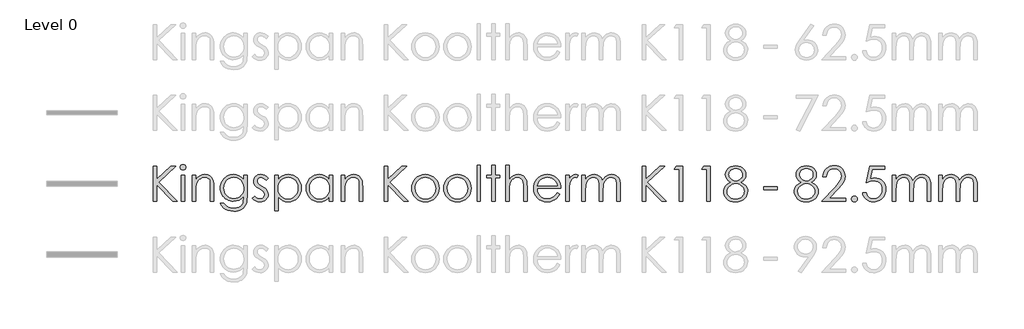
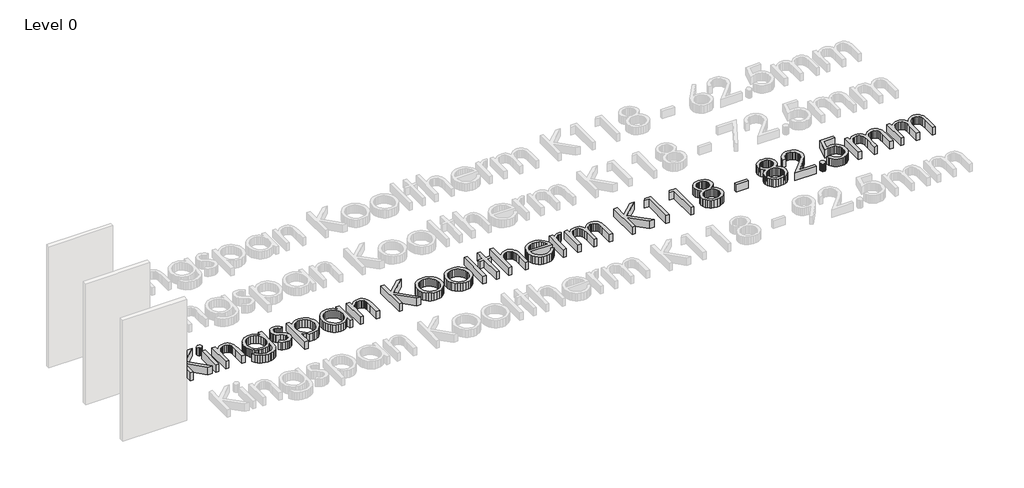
# One storey, part 2 of 8: 1 proxy.
"""IFC4 building model written with IfcOpenShell, lengths in millimetres."""

from ifc_helpers import new_model, si_unit, origin, origin_with_axes, place, context, project, spatial, polyline, outline, extrude, element, save

model = new_model("IFC4")

# Units and contexts
model_context = context("Model", 3, world=origin())
ifc_project = project(units=[si_unit("LENGTHUNIT", "METRE", prefix="MILLI")], contexts=[model_context])

# Site, building, storey
site = spatial("IfcSite", under=ifc_project)
building = spatial("IfcBuilding", under=site)
storey = spatial("IfcBuildingStorey", under=building, Name="Level 0", Elevation=0.0)

# Proxy
placement = place(None, origin())
element("IfcBuildingElementProxy", 1, Name="600mm KI_CenturyGothic", ObjectType="600mm KI_CenturyGothic", at=placement, inside=storey, context=model_context, shape_type="SweptSolid", body=[
    extrude(outline(polyline([(-3852.2663848, -1299.1034017), (-3792.944575, -1299.1034017), (-3792.944575, -1518.316027), (-3555.1938841, -1299.1034017), (-3471.6181051, -1299.1034017), (-3760.9664119, -1566.0515459), (-3441.9572002, -1892.3214999), (-3520.8984627, -1892.3214999), (-3792.944575, -1614.0960325), (-3792.944575, -1892.3214999), (-3852.2663848, -1892.3214999), (-3852.2663848, -1299.1034017)])), origin_with_axes(), (0.0, 0.0, 1.0), 150.0),
    extrude(outline(polyline([(-3348.1854852, -1269.4424967), (-3329.145347, -1272.7252792), (-3313.1176445, -1282.5736265), (-3302.226531, -1297.0178693), (-3298.5961598, -1314.088338), (-3302.226531, -1330.9270809), (-3313.1176445, -1345.2940817), (-3329.145347, -1355.142429), (-3348.1854852, -1358.4252115), (-3366.9938975, -1355.142429), (-3382.9443581, -1345.2940817), (-3393.8354717, -1330.9270809), (-3397.4658428, -1314.088338), (-3393.8354717, -1297.0178693), (-3382.9443581, -1282.5736265), (-3366.9938975, -1272.7252792), (-3348.1854852, -1269.4424967)])), origin_with_axes(), (0.0, 0.0, 1.0), 150.0),
    extrude(outline(polyline([(-3377.6919062, -1447.4079262), (-3318.3700964, -1447.4079262), (-3318.3700964, -1892.3214999), (-3377.6919062, -1892.3214999), (-3377.6919062, -1447.4079262)])), origin_with_axes(), (0.0, 0.0, 1.0), 150.0),
    extrude(outline(polyline([(-3189.8395084, -1447.4079262), (-3130.5176986, -1447.4079262), (-3130.5176986, -1526.5036726), (-3096.9946967, -1486.9944204), (-3060.0730495, -1459.303185), (-3019.7141359, -1442.9665147), (-2975.879335, -1437.5209579), (-2953.4357238, -1439.0995901), (-2932.2955704, -1443.8354865), (-2912.4588747, -1451.7286472), (-2893.9256368, -1462.7790723), (-2877.212412, -1476.5039994), (-2862.835756, -1492.4206667), (-2841.0921499, -1530.8292213), (-2833.6238199, -1555.2087086), (-2828.2892984, -1585.5551357), (-2824.0216812, -1664.1488095), (-2824.0216812, -1892.3214999), (-2883.343491, -1892.3214999), (-2883.343491, -1679.1337458), (-2883.343491, -1576.092998), (-2884.7290183, -1555.2956057), (-2889.8125035, -1537.2403023), (-2898.2849788, -1521.9270877), (-2910.1464442, -1509.355962), (-2924.7403432, -1499.5558909), (-2941.4101193, -1492.5558401), (-2980.977303, -1486.9557994), (-3005.3471351, -1489.1137461), (-3028.4038541, -1495.5875862), (-3050.1474602, -1506.3773197), (-3070.5779533, -1521.4829466), (-3088.6622225, -1539.7651482), (-3103.3671568, -1560.084606), (-3114.6927562, -1582.44132), (-3122.6390208, -1606.8352901), (-3128.5480292, -1653.9142525), (-3130.5176986, -1728.4141035), (-3130.5176986, -1892.3214999), (-3189.8395084, -1892.3214999), (-3189.8395084, -1447.4079262)])), origin_with_axes(), (0.0, 0.0, 1.0), 150.0),
    extrude(outline(polyline([(-2319.7862977, -1447.4079262), (-2260.4644879, -1447.4079262), (-2260.4644879, -1798.395301), (-2264.5196897, -1878.6496765), (-2269.588692, -1909.4499001), (-2276.6852953, -1934.0321474), (-2289.9371156, -1962.6454585), (-2307.2924139, -1987.7732271), (-2328.7511904, -2009.4154531), (-2354.3134448, -2027.5721366), (-2383.3226209, -2041.9343098), (-2415.122162, -2052.1930049), (-2449.7120682, -2058.348222), (-2487.0923395, -2060.3999611), (-2541.0458345, -2056.3833802), (-2589.206184, -2044.3336376), (-2630.260275, -2025.5059147), (-2662.8949946, -2001.1553932), (-2690.2000204, -1967.8061856), (-2715.2650299, -1921.9824048), (-2655.94322, -1921.9824048), (-2642.4355358, -1943.151524), (-2627.0933555, -1961.3951046), (-2609.9166791, -1976.7131468), (-2590.9055067, -1989.1056506), (-2569.7894914, -1998.6691682), (-2546.2982864, -2005.5002523), (-2492.1903075, -2010.9651195), (-2438.5071593, -2005.6354257), (-2415.083541, -1998.9733084), (-2393.93856, -1989.6463441), (-2359.6624492, -1965.6047903), (-2336.8567664, -1936.1176798), (-2329.3884364, -1917.4782342), (-2324.0539149, -1893.7697863), (-2319.7862977, -1831.1458835), (-2319.7862977, -1808.4367532), (-2354.757586, -1844.2190818), (-2396.6420279, -1870.6165148), (-2443.392712, -1886.8952536), (-2492.9627269, -1892.3214999), (-2522.4063889, -1890.4242447), (-2550.9521133, -1884.7324793), (-2578.5999001, -1875.2462036), (-2605.3497494, -1861.9654175), (-2630.1540674, -1845.4742634), (-2651.9652601, -1826.3568832), (-2670.7833277, -1804.6132772), (-2686.6082702, -1780.2434451), (-2699.1456025, -1753.9280817), (-2708.1008399, -1726.3478816), (-2713.4739824, -1697.5028447), (-2715.2650299, -1667.392971), (-2713.3967404, -1637.1044753), (-2707.7918722, -1607.8780563), (-2698.4504251, -1579.713714), (-2685.3723991, -1552.6114483), (-2668.9971079, -1527.4257483), (-2649.7638648, -1505.0111029), (-2627.67267, -1485.367512), (-2602.7235235, -1468.4949758), (-2575.9833294, -1454.943843), (-2548.5189922, -1445.2644624), (-2520.3305117, -1439.456834), (-2491.4178881, -1437.5209579), (-2444.5320306, -1442.4644421), (-2400.8903346, -1457.2948945), (-2359.6045177, -1483.8661218), (-2319.7862977, -1524.0319306), (-2319.7862977, -1447.4079262)]), holes=[polyline([(-2484.1571458, -1486.9557994), (-2529.0154023, -1492.9806707), (-2570.5908765, -1511.0552847), (-2606.2187212, -1539.7699758), (-2633.2340897, -1577.7150788), (-2650.2659375, -1621.9940208), (-2655.94322, -1669.7102292), (-2653.0080263, -1705.6229036), (-2644.2024452, -1738.2817613), (-2629.5264766, -1767.6868023), (-2608.9801206, -1793.8380266), (-2583.7606272, -1815.296803), (-2555.0652466, -1830.6245004), (-2522.8939786, -1839.8211189), (-2487.2468234, -1842.8866584), (-2451.3244937, -1839.845257), (-2419.1001219, -1830.7210528), (-2390.573708, -1815.5140459), (-2365.7452519, -1794.2242363), (-2345.6382095, -1767.9812872), (-2331.2760363, -1737.9148621), (-2322.6587323, -1704.024961), (-2319.7862977, -1666.3115838), (-2325.0773706, -1617.6105407), (-2340.9505892, -1574.3936754), (-2366.4983608, -1538.1672056), (-2400.8130926, -1510.4373492), (-2440.9982119, -1492.8261869), (-2484.1571458, -1486.9557994)])]), origin_with_axes(), (0.0, 0.0, 1.0), 150.0),
    extrude(outline(polyline([(-1904.5336289, -1498.6965743), (-1940.9918246, -1536.390641), (-1962.9575012, -1514.7628978), (-1984.6721416, -1499.3145098), (-2006.1357456, -1490.045477), (-2027.3483133, -1486.9557994), (-2052.181597, -1491.6289368), (-2073.2300256, -1505.6483489), (-2087.5970264, -1525.8857371), (-2092.3860267, -1549.212803), (-2088.4466878, -1570.7633042), (-2076.628671, -1591.2324183), (-2052.0657341, -1613.400855), (-2010.2006027, -1639.122421), (-1958.3326401, -1671.9888664), (-1939.8428507, -1687.8138088), (-1926.315856, -1703.2332311), (-1909.9791857, -1735.9065716), (-1904.5336289, -1772.4420092), (-1906.9474396, -1798.5884059), (-1914.1888714, -1822.6492701), (-1926.2579245, -1844.624602), (-1943.1545989, -1864.5144015), (-1963.6719892, -1881.0055557), (-1986.6031901, -1892.7849515), (-2011.9482016, -1899.852589), (-2039.7070237, -1902.2084682), (-2077.4397114, -1898.3270607), (-2113.3958344, -1886.6828383), (-2145.4512394, -1868.2027042), (-2171.4817731, -1843.8135617), (-2135.7959969, -1803.3387852), (-2114.0041146, -1824.9665283), (-2091.5749863, -1840.4149163), (-2068.5086121, -1849.6839491), (-2044.8049918, -1852.7736267), (-2013.637869, -1847.1349651), (-1987.4914724, -1830.2189802), (-1969.7644472, -1805.6560434), (-1963.8554388, -1777.0765256), (-1967.7561567, -1753.2860081), (-1979.4583106, -1732.2762005), (-2005.0253927, -1710.5712154), (-2050.2119275, -1683.7682622), (-2099.762632, -1653.1032121), (-2117.441381, -1637.9444814), (-2130.3890611, -1622.9016136), (-2146.3781427, -1590.7689666), (-2151.7078365, -1554.310771), (-2149.5305794, -1530.2643896), (-2142.9988078, -1508.3325063), (-2132.1125219, -1488.5151211), (-2116.8717217, -1470.812234), (-2098.309518, -1456.2473007), (-2077.4590218, -1445.8437769), (-2054.3202332, -1439.6016627), (-2028.8931521, -1437.5209579), (-1997.9481, -1441.3444339), (-1966.9064954, -1452.814862), (-1935.7683384, -1471.9322421), (-1904.5336289, -1498.6965743)])), origin_with_axes(), (0.0, 0.0, 1.0), 150.0),
    extrude(outline(polyline([(-1795.7769776, -1447.4079262), (-1736.4551678, -1447.4079262), (-1736.4551678, -1528.5119631), (-1700.9238754, -1488.2689124), (-1660.4490989, -1459.9211205), (-1614.9922173, -1443.1209986), (-1564.5146096, -1437.5209579), (-1520.0618732, -1441.7596094), (-1478.9305402, -1454.4755637), (-1441.1206107, -1475.668821), (-1406.6320845, -1505.3393811), (-1377.9077381, -1540.9768811), (-1357.3903478, -1580.070958), (-1345.0799137, -1622.6216116), (-1340.9764356, -1668.628842), (-1345.0412927, -1715.5291824), (-1357.235864, -1758.7508754), (-1377.5601494, -1798.293921), (-1406.014149, -1834.1583192), (-1440.2130179, -1863.9302594), (-1477.7719111, -1885.1959309), (-1518.6908288, -1897.9553339), (-1562.9697708, -1902.2084682), (-1612.6170277, -1896.743601), (-1658.0545988, -1880.3489992), (-1699.3211052, -1853.1019049), (-1736.4551678, -1815.07956), (-1736.4551678, -2050.5129928), (-1795.7769776, -2050.5129928), (-1795.7769776, -1447.4079262)]), holes=[polyline([(-1568.5311905, -1486.9557994), (-1602.5852307, -1490.2530647), (-1633.8392507, -1500.1448607), (-1662.2932503, -1516.6311872), (-1687.9472295, -1539.7120444), (-1709.1694525, -1567.6977647), (-1724.3281832, -1598.8986808), (-1733.4234216, -1633.3147926), (-1736.4551678, -1670.9461002), (-1731.048232, -1719.8016272), (-1714.8274246, -1763.4819442), (-1688.5265441, -1800.3263495), (-1652.8793888, -1828.6741414), (-1611.4390881, -1846.7487554), (-1567.7587711, -1852.7736267), (-1525.0632888, -1846.7101344), (-1485.0326535, -1828.5196576), (-1450.2544701, -1799.4187567), (-1423.3163435, -1760.6239924), (-1406.05277, -1715.9588407), (-1400.2982454, -1669.2467775), (-1405.9948385, -1622.3029886), (-1423.0846177, -1577.8695627), (-1449.8103289, -1539.5189395), (-1484.414718, -1510.8235589), (-1524.7157001, -1492.9227393), (-1568.5311905, -1486.9557994)])]), origin_with_axes(), (0.0, 0.0, 1.0), 150.0),
    extrude(outline(polyline([(-807.0801472, -1447.4079262), (-807.0801472, -1892.3214999), (-866.401957, -1892.3214999), (-866.401957, -1816.4699149), (-903.4780882, -1854.3184655), (-944.8797679, -1881.0441767), (-990.4525125, -1896.9173953), (-1040.0418379, -1902.2084682), (-1084.3159523, -1897.9553339), (-1125.2203871, -1885.1959309), (-1162.7551422, -1863.9302594), (-1196.9202178, -1834.1583192), (-1225.340424, -1798.293921), (-1245.6405713, -1758.7508754), (-1257.8206597, -1715.5291824), (-1261.8806892, -1668.628842), (-1257.7820388, -1622.6216116), (-1245.4860875, -1580.070958), (-1224.9928353, -1540.9768811), (-1196.3022822, -1505.3393811), (-1161.8475494, -1475.668821), (-1124.061758, -1454.4755637), (-1082.9449079, -1441.7596094), (-1038.4969991, -1437.5209579), (-987.7490446, -1443.1209986), (-942.0990581, -1459.9211205), (-921.2051134, -1472.6081091), (-901.6242816, -1488.2689124), (-866.401957, -1528.5119631), (-866.401957, -1447.4079262), (-807.0801472, -1447.4079262)]), holes=[polyline([(-1034.3259343, -1486.9557994), (-1078.1414247, -1492.9227393), (-1118.4424068, -1510.8235589), (-1153.0467959, -1539.5189395), (-1179.7725071, -1577.8695627), (-1196.8622863, -1622.3029886), (-1202.5588794, -1669.2467775), (-1196.8043548, -1715.9588407), (-1179.5407813, -1760.6239924), (-1152.6026548, -1799.4187567), (-1117.8244713, -1828.5196576), (-1077.6779731, -1846.7101344), (-1034.6349021, -1852.7736267), (-991.0125165, -1846.7487554), (-949.7460102, -1828.6741414), (-914.2726493, -1800.3263495), (-888.0297002, -1763.4819442), (-871.8088928, -1719.8016272), (-866.401957, -1670.9461002), (-869.4337032, -1633.3147926), (-878.5289416, -1598.8986808), (-893.6876723, -1567.6977647), (-914.9098953, -1539.7120444), (-940.5638746, -1516.6311872), (-969.0178742, -1500.1448607), (-1000.2718941, -1490.2530647), (-1034.3259343, -1486.9557994)])]), origin_with_axes(), (0.0, 0.0, 1.0), 150.0),
    extrude(outline(polyline([(-668.662591, -1447.4079262), (-609.3407811, -1447.4079262), (-609.3407811, -1526.5036726), (-575.8177792, -1486.9944204), (-538.896132, -1459.303185), (-498.5372184, -1442.9665147), (-454.7024175, -1437.5209579), (-432.2588064, -1439.0995901), (-411.1186529, -1443.8354865), (-391.2819572, -1451.7286472), (-372.7487193, -1462.7790723), (-356.0354946, -1476.5039994), (-341.6588385, -1492.4206667), (-319.9152324, -1530.8292213), (-312.4469024, -1555.2087086), (-307.1123809, -1585.5551357), (-302.8447637, -1664.1488095), (-302.8447637, -1892.3214999), (-362.1665735, -1892.3214999), (-362.1665735, -1679.1337458), (-362.1665735, -1576.092998), (-363.5521008, -1555.2956057), (-368.635586, -1537.2403023), (-377.1080613, -1521.9270877), (-388.9695267, -1509.355962), (-403.5634257, -1499.5558909), (-420.2332018, -1492.5558401), (-459.8003855, -1486.9557994), (-484.1702176, -1489.1137461), (-507.2269366, -1495.5875862), (-528.9705427, -1506.3773197), (-549.4010358, -1521.4829466), (-567.485305, -1539.7651482), (-582.1902393, -1560.084606), (-593.5158387, -1582.44132), (-601.4621033, -1606.8352901), (-607.3711117, -1653.9142525), (-609.3407811, -1728.4141035), (-609.3407811, -1892.3214999), (-668.662591, -1892.3214999), (-668.662591, -1447.4079262)])), origin_with_axes(), (0.0, 0.0, 1.0), 150.0),
    extrude(outline(polyline([(62.9730635, -1299.1034017), (122.2948734, -1299.1034017), (122.2948734, -1518.316027), (360.0455643, -1299.1034017), (443.6213432, -1299.1034017), (154.2730365, -1566.0515459), (473.2822481, -1892.3214999), (394.3409856, -1892.3214999), (122.2948734, -1614.0960325), (122.2948734, -1892.3214999), (62.9730635, -1892.3214999), (62.9730635, -1299.1034017)])), origin_with_axes(), (0.0, 0.0, 1.0), 150.0),
    extrude(outline(polyline([(760.1588128, -1437.5209579), (809.4681362, -1442.1458191), (854.3553585, -1456.0204025), (894.8204798, -1479.1447083), (930.8635, -1511.5187363), (957.7630055, -1546.7507161), (976.9769381, -1585.091684), (988.5052976, -1626.54164), (992.3480841, -1671.1005841), (988.283227, -1715.9153921), (976.0886558, -1757.8239721), (955.7643703, -1796.8263241), (927.3103707, -1832.9224481), (892.4742558, -1863.2350819), (853.0036246, -1884.8869632), (808.8984769, -1897.8780919), (760.1588128, -1902.2084682), (711.2839754, -1897.8780919), (667.0822753, -1884.8869632), (627.5537126, -1863.2350819), (592.6982872, -1832.9224481), (564.2442876, -1796.8263241), (543.9200022, -1757.8239721), (531.7254309, -1715.9153921), (527.6605738, -1671.1005841), (531.5033603, -1626.7347449), (543.0317198, -1585.4006518), (562.2456524, -1547.0983049), (589.145158, -1511.8277041), (625.2074886, -1479.3185026), (665.7305413, -1456.0976445), (710.7143161, -1442.1651295), (760.1588128, -1437.5209579)]), holes=[polyline([(760.004329, -1486.9557994), (725.7282181, -1490.3303067), (693.9624704, -1500.4538284), (664.7070856, -1517.3263647), (637.962064, -1540.9479154), (615.6584538, -1569.3584664), (599.7273037, -1600.5980035), (590.1686137, -1634.6665266), (586.9823836, -1671.5640357), (592.7948396, -1719.2995546), (610.2322075, -1763.6364281), (637.5758543, -1801.4270471), (673.1071466, -1829.5238028), (714.6439998, -1846.9611707), (760.004329, -1852.7736267), (805.3646581, -1846.9611707), (846.9015113, -1829.5238028), (882.4328037, -1801.4270471), (909.7764504, -1763.6364281), (927.2138183, -1719.2995546), (933.0262743, -1671.5640357), (929.8255614, -1634.6665266), (920.2234227, -1600.5980035), (904.2198583, -1569.3584664), (881.8148681, -1540.9479154), (854.9974321, -1517.3263647), (825.7565303, -1500.4538284), (794.0921625, -1490.3303067), (760.004329, -1486.9557994)])]), origin_with_axes(), (0.0, 0.0, 1.0), 150.0),
    extrude(outline(polyline([(1303.9420695, -1437.5209579), (1353.2513929, -1442.1458191), (1398.1386152, -1456.0204025), (1438.6037365, -1479.1447083), (1474.6467567, -1511.5187363), (1501.5462622, -1546.7507161), (1520.7601948, -1585.091684), (1532.2885543, -1626.54164), (1536.1313408, -1671.1005841), (1532.0664837, -1715.9153921), (1519.8719125, -1757.8239721), (1499.547627, -1796.8263241), (1471.0936274, -1832.9224481), (1436.2575126, -1863.2350819), (1396.7868813, -1884.8869632), (1352.6817336, -1897.8780919), (1303.9420695, -1902.2084682), (1255.0672321, -1897.8780919), (1210.865532, -1884.8869632), (1171.3369693, -1863.2350819), (1136.4815439, -1832.9224481), (1108.0275443, -1796.8263241), (1087.7032589, -1757.8239721), (1075.5086876, -1715.9153921), (1071.4438305, -1671.1005841), (1075.286617, -1626.7347449), (1086.8149766, -1585.4006518), (1106.0289091, -1547.0983049), (1132.9284147, -1511.8277041), (1168.9907453, -1479.3185026), (1209.5137981, -1456.0976445), (1254.4975728, -1442.1651295), (1303.9420695, -1437.5209579)]), holes=[polyline([(1303.7875857, -1486.9557994), (1269.5114748, -1490.3303067), (1237.7457271, -1500.4538284), (1208.4903423, -1517.3263647), (1181.7453207, -1540.9479154), (1159.4417105, -1569.3584664), (1143.5105604, -1600.5980035), (1133.9518704, -1634.6665266), (1130.7656404, -1671.5640357), (1136.5780963, -1719.2995546), (1154.0154643, -1763.6364281), (1181.359111, -1801.4270471), (1216.8904033, -1829.5238028), (1258.4272565, -1846.9611707), (1303.7875857, -1852.7736267), (1349.1479149, -1846.9611707), (1390.684768, -1829.5238028), (1426.2160604, -1801.4270471), (1453.5597071, -1763.6364281), (1470.997075, -1719.2995546), (1476.809531, -1671.5640357), (1473.6088181, -1634.6665266), (1464.0066795, -1600.5980035), (1448.003115, -1569.3584664), (1425.5981249, -1540.9479154), (1398.7806889, -1517.3263647), (1369.539787, -1500.4538284), (1337.8754193, -1490.3303067), (1303.7875857, -1486.9557994)])]), origin_with_axes(), (0.0, 0.0, 1.0), 150.0),
    extrude(outline(polyline([(1635.0010238, -1279.3294651), (1694.3228337, -1279.3294651), (1694.3228337, -1892.3214999), (1635.0010238, -1892.3214999), (1635.0010238, -1279.3294651)])), origin_with_axes(), (0.0, 0.0, 1.0), 150.0),
    extrude(outline(polyline([(1882.1752314, -1279.3294651), (1941.4970413, -1279.3294651), (1941.4970413, -1447.4079262), (2020.5927877, -1447.4079262), (2020.5927877, -1496.8427677), (1941.4970413, -1496.8427677), (1941.4970413, -1892.3214999), (1882.1752314, -1892.3214999), (1882.1752314, -1496.8427677), (1803.079485, -1496.8427677), (1803.079485, -1447.4079262), (1882.1752314, -1447.4079262), (1882.1752314, -1279.3294651)])), origin_with_axes(), (0.0, 0.0, 1.0), 150.0),
    extrude(outline(polyline([(2119.4624707, -1279.3294651), (2178.7842806, -1279.3294651), (2178.7842806, -1528.0485114), (2212.5583188, -1488.3461544), (2249.6151394, -1460.0756044), (2289.9161216, -1443.1596195), (2333.4226442, -1437.5209579), (2355.8662553, -1439.0995901), (2377.0064088, -1443.8354865), (2396.8431044, -1451.7286472), (2415.3763424, -1462.7790723), (2432.0895671, -1476.4895166), (2446.4662232, -1492.3627352), (2468.2098293, -1530.5974955), (2475.6781593, -1554.9045684), (2481.0126808, -1585.2654784), (2485.280298, -1664.1488095), (2485.280298, -1892.3214999), (2425.9584882, -1892.3214999), (2425.9584882, -1679.1337458), (2424.5681332, -1614.752589), (2420.3970685, -1576.092998), (2406.879729, -1537.2403023), (2397.1665551, -1521.9270877), (2385.4837117, -1509.355962), (2371.840854, -1499.5558909), (2356.2476374, -1492.5558401), (2319.2101273, -1486.9557994), (2296.3416854, -1489.1137461), (2274.6994594, -1495.5875862), (2254.2834492, -1506.3773197), (2235.0936547, -1521.4829466), (2218.1052556, -1539.7651482), (2204.2934312, -1560.084606), (2193.6581816, -1582.44132), (2186.1995068, -1606.8352901), (2180.6380871, -1653.6825267), (2178.7842806, -1728.4141035), (2178.7842806, -1892.3214999), (2119.4624707, -1892.3214999), (2119.4624707, -1279.3294651)])), origin_with_axes(), (0.0, 0.0, 1.0), 150.0),
    extrude(outline(polyline([(2991.0605203, -1744.0169753), (3038.950523, -1769.1978477), (3013.3255094, -1811.0822896), (2984.0315038, -1844.0452875), (2950.952643, -1869.1296074), (2913.9730643, -1887.3780157), (2872.4941426, -1898.5008551), (2825.9172528, -1902.2084682), (2774.4258447, -1897.7767119), (2728.8627554, -1884.481443), (2689.227985, -1862.3226615), (2655.5215335, -1831.3003674), (2628.6220279, -1794.6973431), (2609.4080954, -1755.7963712), (2597.8797358, -1714.5974515), (2594.0369493, -1671.1005841), (2597.3197318, -1630.2202874), (2607.1680791, -1591.618628), (2623.5819913, -1555.2956057), (2646.5614684, -1521.2512207), (2682.7493173, -1484.6192308), (2724.5758277, -1458.4535236), (2772.0409998, -1442.7540993), (2825.1448334, -1437.5209579), (2879.7935059, -1442.8892727), (2928.6490329, -1458.9942172), (2971.7114143, -1485.8357913), (3008.9806503, -1523.4139951), (3030.4539096, -1555.585263), (3045.9022976, -1591.541386), (3055.3258143, -1631.2823641), (3058.7244596, -1674.8081972), (2653.3587591, -1674.8081972), (2657.095338, -1712.0629503), (2666.6057518, -1745.8128504), (2681.8900007, -1776.0578975), (2702.9480845, -1802.7980916), (2728.3124066, -1824.6623882), (2756.5153699, -1840.2797429), (2787.5569744, -1849.6501557), (2821.4372203, -1852.7736267), (2854.9602222, -1849.761191), (2887.5563208, -1840.7238841), (2917.2944677, -1826.6851615), (2942.2436143, -1808.668479), (2965.725164, -1782.5027719), (2991.0605203, -1744.0169753)]), holes=[polyline([(2999.4026498, -1625.3733557), (2984.9777175, -1582.8516678), (2965.1844704, -1549.8307385), (2939.0766947, -1524.3022774), (2905.7081767, -1504.257994), (2867.7630738, -1491.2813481), (2827.9255433, -1486.9557994), (2795.503239, -1489.6689226), (2765.4368139, -1497.808292), (2737.726268, -1511.3739077), (2712.3716012, -1530.3657696), (2695.8321708, -1548.179692), (2681.4362043, -1569.9522638), (2669.1837016, -1595.683485), (2659.0746627, -1625.3733557), (2999.4026498, -1625.3733557)])]), origin_with_axes(), (0.0, 0.0, 1.0), 150.0),
    extrude(outline(polyline([(3137.820206, -1447.4079262), (3197.1420159, -1447.4079262), (3197.1420159, -1511.8277041), (3222.6897875, -1478.7874643), (3249.589293, -1455.6728138), (3277.7632906, -1442.0589219), (3307.1345382, -1437.5209579), (3330.4616041, -1441.305813), (3355.3335087, -1452.6603781), (3325.8270877, -1494.6799934), (3297.2475699, -1486.9557994), (3270.8308265, -1492.9034288), (3245.3409863, -1510.7463169), (3223.2884125, -1541.1023993), (3207.183468, -1584.5896114), (3199.6523789, -1642.7141712), (3197.1420159, -1740.1548783), (3197.1420159, -1892.3214999), (3137.820206, -1892.3214999), (3137.820206, -1447.4079262)])), origin_with_axes(), (0.0, 0.0, 1.0), 150.0),
    extrude(outline(polyline([(3414.6553185, -1447.4079262), (3473.9771284, -1447.4079262), (3473.9771284, -1523.5684789), (3503.5607913, -1487.0716623), (3533.9168737, -1461.9294109), (3577.3268439, -1443.6230712), (3622.8995884, -1437.5209579), (3653.7384329, -1440.668567), (3682.9165757, -1450.1113941), (3708.6767627, -1464.7873627), (3729.2617397, -1483.634396), (3746.0425511, -1509.0663047), (3760.3902414, -1543.4968994), (3775.16759, -1519.0981017), (3791.6925376, -1497.808292), (3809.965084, -1479.6274704), (3829.9852293, -1464.5556369), (3851.2798666, -1452.7279648), (3873.375889, -1444.2796277), (3896.2732965, -1439.2106253), (3919.9720892, -1437.5209579), (3962.3006723, -1443.3334139), (3981.4952943, -1450.5989839), (3999.3768034, -1460.7707818), (4015.4914031, -1473.53984), (4029.385297, -1488.5971907), (4050.5109676, -1525.5767694), (4057.8103309, -1548.9521114), (4063.0241619, -1577.5219739), (4067.1952266, -1650.2452603), (4067.1952266, -1892.3214999), (4007.8734168, -1892.3214999), (4007.8734168, -1646.6921311), (4005.4209852, -1585.5744462), (3998.0636904, -1547.1272706), (3984.7587663, -1522.6608861), (3964.4634466, -1503.4855746), (3938.3942919, -1491.0882432), (3907.7678627, -1486.9557994), (3888.1194443, -1488.5054659), (3869.3399976, -1493.1544651), (3834.3880198, -1511.7504621), (3805.6540182, -1540.6968791), (3785.8800816, -1577.9468046), (3779.1889985, -1602.1042213), (3774.4096535, -1633.1747916), (3770.5861775, -1716.0553931), (3770.5861775, -1892.3214999), (3711.2643677, -1892.3214999), (3711.2643677, -1661.9860352), (3708.850557, -1593.530366), (3701.6091252, -1551.2983353), (3688.3621325, -1525.0553863), (3667.9316394, -1504.5669617), (3641.6114484, -1491.35859), (3610.6953619, -1486.9557994), (3573.7544042, -1492.9999812), (3539.2465676, -1511.1325266), (3510.2808401, -1539.499629), (3489.9662099, -1576.2474819), (3477.9743988, -1628.0768236), (3473.9771284, -1701.6883923), (3473.9771284, -1892.3214999), (3414.6553185, -1892.3214999), (3414.6553185, -1447.4079262)])), origin_with_axes(), (0.0, 0.0, 1.0), 150.0),
    extrude(outline(polyline([(4433.0130538, -1299.1034017), (4492.3348637, -1299.1034017), (4492.3348637, -1518.316027), (4730.0855546, -1299.1034017), (4813.6613335, -1299.1034017), (4524.3130268, -1566.0515459), (4843.3222385, -1892.3214999), (4764.3809759, -1892.3214999), (4492.3348637, -1614.0960325), (4492.3348637, -1892.3214999), (4433.0130538, -1892.3214999), (4433.0130538, -1299.1034017)])), origin_with_axes(), (0.0, 0.0, 1.0), 150.0),
    extrude(outline(polyline([(5010.6282802, -1299.1034017), (5125.1008351, -1299.1034017), (5125.1008351, -1892.3214999), (5065.7790253, -1892.3214999), (5065.7790253, -1348.5382432), (4976.7963106, -1348.5382432), (5010.6282802, -1299.1034017)])), origin_with_axes(), (0.0, 0.0, 1.0), 150.0),
    extrude(outline(polyline([(5475.3157905, -1299.1034017), (5589.7883454, -1299.1034017), (5589.7883454, -1892.3214999), (5530.4665356, -1892.3214999), (5530.4665356, -1348.5382432), (5441.4838208, -1348.5382432), (5475.3157905, -1299.1034017)])), origin_with_axes(), (0.0, 0.0, 1.0), 150.0),
    extrude(outline(polyline([(6107.7727942, -1568.2143202), (6159.8724826, -1599.6131687), (6179.6946955, -1616.8477766), (6195.365154, -1635.1058401), (6207.2604128, -1654.5225327), (6215.7570261, -1675.2330279), (6220.8549942, -1697.2373255), (6222.5543169, -1720.5354256), (6219.734986, -1753.2184214), (6211.2769936, -1783.9124373), (6197.1803396, -1812.6174732), (6177.445024, -1839.3335291), (6146.7510081, -1866.841315), (6110.1286734, -1886.4897334), (6067.5780197, -1898.2787845), (6019.0990472, -1902.2084682), (5972.4352603, -1898.756719), (5931.7770342, -1888.4014714), (5897.1243689, -1871.1427255), (5868.4772645, -1846.9804812), (5846.0384809, -1818.6664826), (5830.0107784, -1788.9524739), (5820.3941569, -1757.838455), (5817.1886164, -1725.3244259), (5818.9024219, -1701.5966675), (5824.0438386, -1679.0758144), (5832.6128663, -1657.7618666), (5844.609505, -1637.6548241), (5860.5068618, -1618.6871003), (5880.7780434, -1600.7911083), (5905.4230498, -1583.9668483), (5934.4418811, -1568.2143202), (5896.0719475, -1543.2651736), (5868.7089903, -1512.9090912), (5852.3143886, -1478.6522909), (5846.8495213, -1442.0009904), (5852.6426668, -1404.2876133), (5870.0221033, -1367.4625184), (5897.6360968, -1334.9436618), (5934.1329134, -1310.1489991), (5976.7318432, -1294.4495748), (6022.6521765, -1289.2164334), (6067.3945701, -1294.4881958), (6108.6224555, -1310.3034829), (6143.8254696, -1335.1753876), (6170.4932494, -1367.6170023), (6187.2933713, -1404.7510649), (6192.8934119, -1443.7003131), (6187.5830286, -1481.2398959), (6171.6518785, -1514.45393), (6145.0613407, -1543.4196575), (6107.7727942, -1568.2143202)]), holes=[polyline([(6022.9611442, -1595.7124508), (5993.0926516, -1598.2228138), (5965.7441773, -1605.753903), (5940.9157212, -1618.3057182), (5918.6072834, -1635.8782595), (5900.1899084, -1656.7818595), (5887.0346405, -1679.3268507), (5879.1414798, -1703.5132331), (5876.5104262, -1729.3410068), (5881.0097692, -1761.4543433), (5894.5077982, -1791.6752522), (5916.0776099, -1817.6092335), (5944.7923011, -1836.8617871), (5979.6670369, -1848.7956668), (6019.7169827, -1852.7736267), (6050.9372093, -1850.3549884), (6078.7877563, -1843.0990737), (6103.2686236, -1831.0058825), (6124.3798113, -1814.0754148), (6141.3778657, -1793.9104409), (6153.5193331, -1772.113731), (6160.8042135, -1748.6852851), (6163.232507, -1723.6251032), (6160.6642125, -1699.2938921), (6152.959329, -1676.353036), (6140.1178565, -1654.8025348), (6122.139795, -1634.6423885), (6100.5313623, -1617.6105407), (6076.7987763, -1605.4449352), (6050.9420369, -1598.1455719), (6022.9611442, -1595.7124508)]), polyline([(6019.7169827, -1338.6512749), (5996.2112949, -1340.5099091), (5974.8201052, -1346.0858116), (5955.5434136, -1355.3789825), (5938.3812201, -1368.3894217), (5924.2893937, -1383.9778107), (5914.2238034, -1401.0048308), (5908.1844492, -1419.4704821), (5906.1713311, -1439.3747645), (5908.3389331, -1459.2838745), (5914.8417389, -1478.2274602), (5925.6797486, -1496.2055217), (5940.8529621, -1513.218059), (5958.9130932, -1527.6816122), (5978.4118554, -1538.0127217), (5999.3492487, -1544.2113874), (6021.7252732, -1546.2776093), (6050.4399643, -1542.5313752), (6077.5711957, -1531.2926729), (6101.0334349, -1513.5463372), (6118.7411497, -1490.2772028), (6129.863989, -1464.2273586), (6133.5716021, -1438.1388934), (6131.7467613, -1419.9677271), (6126.2722388, -1402.5303592), (6117.1480347, -1385.8267897), (6104.3741488, -1369.8570186), (6088.134031, -1356.2045057), (6068.6111307, -1346.4527108), (6045.8054479, -1340.6016339), (6019.7169827, -1338.6512749)])]), origin_with_axes(), (0.0, 0.0, 1.0), 150.0),
    extrude(outline(polyline([(6499.3894294, -1645.1472923), (6726.7897004, -1645.1472923), (6726.7897004, -1694.5821338), (6499.3894294, -1694.5821338), (6499.3894294, -1645.1472923)])), origin_with_axes(), (0.0, 0.0, 1.0), 150.0),
    extrude(outline(polyline([(7304.095959, -1568.2143202), (7356.1956474, -1599.6131687), (7376.0178602, -1616.8477766), (7391.6883188, -1635.1058401), (7403.5835775, -1654.5225327), (7412.0801909, -1675.2330279), (7417.1781589, -1697.2373255), (7418.8774816, -1720.5354256), (7416.0581508, -1753.2184214), (7407.6001584, -1783.9124373), (7393.5035044, -1812.6174732), (7373.7681887, -1839.3335291), (7343.0741729, -1866.841315), (7306.4518381, -1886.4897334), (7263.9011845, -1898.2787845), (7215.422212, -1902.2084682), (7168.7584251, -1898.756719), (7128.100199, -1888.4014714), (7093.4475337, -1871.1427255), (7064.8004292, -1846.9804812), (7042.3616457, -1818.6664826), (7026.3339432, -1788.9524739), (7016.7173217, -1757.838455), (7013.5117812, -1725.3244259), (7015.2255867, -1701.5966675), (7020.3670033, -1679.0758144), (7028.936031, -1657.7618666), (7040.9326698, -1637.6548241), (7056.8300266, -1618.6871003), (7077.1012082, -1600.7911083), (7101.7462146, -1583.9668483), (7130.7650459, -1568.2143202), (7092.3951123, -1543.2651736), (7065.0321551, -1512.9090912), (7048.6375533, -1478.6522909), (7043.1726861, -1442.0009904), (7048.9658316, -1404.2876133), (7066.345268, -1367.4625184), (7093.9592615, -1334.9436618), (7130.4560781, -1310.1489991), (7173.055008, -1294.4495748), (7218.9753412, -1289.2164334), (7263.7177349, -1294.4881958), (7304.9456203, -1310.3034829), (7340.1486344, -1335.1753876), (7366.8164141, -1367.6170023), (7383.6165361, -1404.7510649), (7389.2165767, -1443.7003131), (7383.9061933, -1481.2398959), (7367.9750432, -1514.45393), (7341.3845054, -1543.4196575), (7304.095959, -1568.2143202)]), holes=[polyline([(7219.284309, -1595.7124508), (7189.4158164, -1598.2228138), (7162.067342, -1605.753903), (7137.238886, -1618.3057182), (7114.9304482, -1635.8782595), (7096.5130732, -1656.7818595), (7083.3578053, -1679.3268507), (7075.4646446, -1703.5132331), (7072.833591, -1729.3410068), (7077.332934, -1761.4543433), (7090.830963, -1791.6752522), (7112.4007747, -1817.6092335), (7141.1154658, -1836.8617871), (7175.9902017, -1848.7956668), (7216.0401475, -1852.7736267), (7247.2603741, -1850.3549884), (7275.110921, -1843.0990737), (7299.5917884, -1831.0058825), (7320.702976, -1814.0754148), (7337.7010304, -1793.9104409), (7349.8424979, -1772.113731), (7357.1273783, -1748.6852851), (7359.5556718, -1723.6251032), (7356.9873773, -1699.2938921), (7349.2824938, -1676.353036), (7336.4410213, -1654.8025348), (7318.4629598, -1634.6423885), (7296.8545271, -1617.6105407), (7273.1219411, -1605.4449352), (7247.2652017, -1598.1455719), (7219.284309, -1595.7124508)]), polyline([(7216.0401475, -1338.6512749), (7192.5344597, -1340.5099091), (7171.14327, -1346.0858116), (7151.8665783, -1355.3789825), (7134.7043848, -1368.3894217), (7120.6125584, -1383.9778107), (7110.5469681, -1401.0048308), (7104.507614, -1419.4704821), (7102.4944959, -1439.3747645), (7104.6620978, -1459.2838745), (7111.1649037, -1478.2274602), (7122.0029133, -1496.2055217), (7137.1761269, -1513.218059), (7155.236258, -1527.6816122), (7174.7350202, -1538.0127217), (7195.6724135, -1544.2113874), (7218.048438, -1546.2776093), (7246.7631291, -1542.5313752), (7273.8943605, -1531.2926729), (7297.3565997, -1513.5463372), (7315.0643144, -1490.2772028), (7326.1871538, -1464.2273586), (7329.8947669, -1438.1388934), (7328.0699261, -1419.9677271), (7322.5954036, -1402.5303592), (7313.4711994, -1385.8267897), (7300.6973136, -1369.8570186), (7284.4571958, -1356.2045057), (7264.9342955, -1346.4527108), (7242.1286127, -1340.6016339), (7216.0401475, -1338.6512749)])]), origin_with_axes(), (0.0, 0.0, 1.0), 150.0),
    extrude(outline(polyline([(7557.2950379, -1477.0688311), (7497.9732281, -1477.0688311), (7502.4580882, -1437.8106152), (7513.5954104, -1402.2213914), (7531.3851947, -1370.3011597), (7555.827441, -1342.0499202), (7585.2228268, -1318.9352697), (7617.8720292, -1302.4248051), (7653.7750484, -1292.5185263), (7692.9318843, -1289.2164334), (7731.403198, -1292.5136987), (7766.0220699, -1302.4054946), (7796.7885001, -1318.8918211), (7823.7024885, -1341.9726783), (7845.5667851, -1369.533568), (7861.1841398, -1399.459992), (7870.5545527, -1431.7519505), (7873.6780236, -1466.4094434), (7867.5952208, -1515.2070389), (7849.3468125, -1560.8763359), (7813.5644839, -1612.763609), (7754.8799201, -1680.215133), (7602.095363, -1842.8866584), (7883.5649919, -1842.8866584), (7883.5649919, -1892.3214999), (7478.1992914, -1892.3214999), (7704.2092075, -1651.6356152), (7760.9434124, -1586.1151397), (7793.6553739, -1540.0210121), (7809.1810038, -1502.6552237), (7814.3562138, -1463.3197658), (7812.1065423, -1438.7133804), (7805.3575278, -1415.8739043), (7794.1091703, -1394.8013375), (7778.3614698, -1375.4956802), (7759.3502973, -1359.3762529), (7738.311524, -1347.8623762), (7715.2451497, -1340.9540502), (7690.1511745, -1338.6512749), (7663.8165006, -1340.9250845), (7639.8087401, -1347.7465133), (7618.1278932, -1359.1155613), (7598.7739596, -1375.0322286), (7582.5386694, -1395.0523738), (7570.2137523, -1418.731856), (7561.7992085, -1446.0706751), (7557.2950379, -1477.0688311)])), origin_with_axes(), (0.0, 0.0, 1.0), 150.0),
    extrude(outline(polyline([(8031.8695165, -1803.3387852), (8050.8903442, -1806.9305354), (8066.8601152, -1817.705786), (8077.6932973, -1833.6562466), (8081.304358, -1852.7736267), (8077.6932973, -1871.6979019), (8066.8601152, -1887.6869835), (8050.8903442, -1898.578097), (8031.8695165, -1902.2084682), (8012.8486888, -1898.578097), (7996.8789177, -1887.6869835), (7986.0457356, -1871.6979019), (7982.4346749, -1852.7736267), (7986.0457356, -1833.6562466), (7996.8789177, -1817.705786), (8012.8486888, -1806.9305354), (8031.8695165, -1803.3387852)])), origin_with_axes(), (0.0, 0.0, 1.0), 150.0),
    extrude(outline(polyline([(8545.9918683, -1299.1034017), (8545.9918683, -1348.5382432), (8338.6745016, -1348.5382432), (8304.2245965, -1509.5104459), (8341.8028002, -1500.0096873), (8375.441665, -1496.8427677), (8415.0281592, -1500.2655512), (8450.9842822, -1510.5339016), (8483.3100341, -1527.6478189), (8512.0054147, -1551.6073031), (8535.5255854, -1580.9157917), (8552.3257073, -1614.076722), (8562.4057805, -1651.090094), (8565.7658049, -1691.9559079), (8564.0423441, -1720.9216353), (8558.8719617, -1748.6514917), (8550.2546578, -1775.1454771), (8538.1904323, -1800.4035914), (8523.1861855, -1823.6051391), (8505.7488176, -1843.9294246), (8485.8783286, -1861.3764477), (8463.5747184, -1875.9462086), (8439.1421273, -1887.4359472), (8412.8846954, -1895.6429033), (8384.8024226, -1900.567077), (8354.895309, -1902.2084682), (8319.5619491, -1899.4518965), (8287.0961963, -1891.1821813), (8257.4980505, -1877.3993226), (8230.7675116, -1858.1033205), (8208.0149327, -1834.4334936), (8190.3506666, -1807.5291604), (8177.7747133, -1777.390321), (8170.2870727, -1744.0169753), (8229.6088825, -1744.0169753), (8239.1868831, -1776.7482474), (8253.7083678, -1802.6436077), (8273.5402358, -1822.9582379), (8299.0493865, -1838.9473194), (8328.0730454, -1849.3170499), (8358.4484383, -1852.7736267), (8387.7376163, -1849.8480882), (8414.8929858, -1841.0714728), (8439.9145467, -1826.4437804), (8462.802299, -1805.9650111), (8481.895541, -1781.0931065), (8495.533571, -1753.2860081), (8503.716389, -1722.543716), (8506.4439951, -1688.8662303), (8503.9819082, -1658.6791146), (8496.5956477, -1631.4561585), (8484.2852135, -1607.1973617), (8467.0506057, -1585.9027244), (8445.6932093, -1568.5667365), (8421.0144096, -1556.183888), (8393.0142063, -1548.754179), (8361.6925997, -1546.2776093), (8332.9875638, -1548.1314158), (8301.4052657, -1553.6928355), (8229.6088825, -1575.9385142), (8288.9306924, -1299.1034017), (8545.9918683, -1299.1034017)])), origin_with_axes(), (0.0, 0.0, 1.0), 150.0),
    extrude(outline(polyline([(8674.5224562, -1447.4079262), (8733.844266, -1447.4079262), (8733.844266, -1523.5684789), (8763.427929, -1487.0716623), (8793.7840114, -1461.9294109), (8837.1939816, -1443.6230712), (8882.7667261, -1437.5209579), (8913.6055706, -1440.668567), (8942.7837134, -1450.1113941), (8968.5439003, -1464.7873627), (8989.1288773, -1483.634396), (9005.9096888, -1509.0663047), (9020.2573791, -1543.4968994), (9035.0347277, -1519.0981017), (9051.5596752, -1497.808292), (9069.8322216, -1479.6274704), (9089.8523669, -1464.5556369), (9111.1470042, -1452.7279648), (9133.2430266, -1444.2796277), (9156.1404342, -1439.2106253), (9179.8392269, -1437.5209579), (9222.1678099, -1443.3334139), (9241.362432, -1450.5989839), (9259.2439411, -1460.7707818), (9275.3585408, -1473.53984), (9289.2524347, -1488.5971907), (9310.3781053, -1525.5767694), (9317.6774686, -1548.9521114), (9322.8912995, -1577.5219739), (9327.0623643, -1650.2452603), (9327.0623643, -1892.3214999), (9267.7405545, -1892.3214999), (9267.7405545, -1646.6921311), (9265.2881229, -1585.5744462), (9257.9308281, -1547.1272706), (9244.6259039, -1522.6608861), (9224.3305842, -1503.4855746), (9198.2614295, -1491.0882432), (9167.6350004, -1486.9557994), (9147.9865819, -1488.5054659), (9129.2071353, -1493.1544651), (9094.2551575, -1511.7504621), (9065.5211559, -1540.6968791), (9045.7472193, -1577.9468046), (9039.0561362, -1602.1042213), (9034.2767912, -1633.1747916), (9030.4533152, -1716.0553931), (9030.4533152, -1892.3214999), (8971.1315053, -1892.3214999), (8971.1315053, -1661.9860352), (8968.7176947, -1593.530366), (8961.4762628, -1551.2983353), (8948.2292702, -1525.0553863), (8927.7987771, -1504.5669617), (8901.4785861, -1491.35859), (8870.5624996, -1486.9557994), (8833.6215419, -1492.9999812), (8799.1137052, -1511.1325266), (8770.1479778, -1539.499629), (8749.8333476, -1576.2474819), (8737.8415364, -1628.0768236), (8733.844266, -1701.6883923), (8733.844266, -1892.3214999), (8674.5224562, -1892.3214999), (8674.5224562, -1447.4079262)])), origin_with_axes(), (0.0, 0.0, 1.0), 150.0),
    extrude(outline(polyline([(9465.4799205, -1447.4079262), (9524.8017304, -1447.4079262), (9524.8017304, -1523.5684789), (9554.3853933, -1487.0716623), (9584.7414757, -1461.9294109), (9628.1514459, -1443.6230712), (9673.7241904, -1437.5209579), (9704.5630349, -1440.668567), (9733.7411777, -1450.1113941), (9759.5013647, -1464.7873627), (9780.0863416, -1483.634396), (9796.8671531, -1509.0663047), (9811.2148434, -1543.4968994), (9825.992192, -1519.0981017), (9842.5171395, -1497.808292), (9860.7896859, -1479.6274704), (9880.8098312, -1464.5556369), (9902.1044685, -1452.7279648), (9924.200491, -1444.2796277), (9947.0978985, -1439.2106253), (9970.7966912, -1437.5209579), (10013.1252742, -1443.3334139), (10032.3198963, -1450.5989839), (10050.2014054, -1460.7707818), (10066.3160051, -1473.53984), (10080.209899, -1488.5971907), (10101.3355696, -1525.5767694), (10108.6349329, -1548.9521114), (10113.8487638, -1577.5219739), (10118.0198286, -1650.2452603), (10118.0198286, -1892.3214999), (10058.6980188, -1892.3214999), (10058.6980188, -1646.6921311), (10056.2455872, -1585.5744462), (10048.8882924, -1547.1272706), (10035.5833683, -1522.6608861), (10015.2880486, -1503.4855746), (9989.2188938, -1491.0882432), (9958.5924647, -1486.9557994), (9938.9440462, -1488.5054659), (9920.1645996, -1493.1544651), (9885.2126218, -1511.7504621), (9856.4786202, -1540.6968791), (9836.7046836, -1577.9468046), (9830.0136005, -1602.1042213), (9825.2342555, -1633.1747916), (9821.4107795, -1716.0553931), (9821.4107795, -1892.3214999), (9762.0889696, -1892.3214999), (9762.0889696, -1661.9860352), (9759.675159, -1593.530366), (9752.4337272, -1551.2983353), (9739.1867345, -1525.0553863), (9718.7562414, -1504.5669617), (9692.4360504, -1491.35859), (9661.5199639, -1486.9557994), (9624.5790062, -1492.9999812), (9590.0711695, -1511.1325266), (9561.1054421, -1539.499629), (9540.7908119, -1576.2474819), (9528.7990007, -1628.0768236), (9524.8017304, -1701.6883923), (9524.8017304, -1892.3214999), (9465.4799205, -1892.3214999), (9465.4799205, -1447.4079262)])), origin_with_axes(), (0.0, 0.0, 1.0), 150.0),
])

save(model, "model.ifc")
